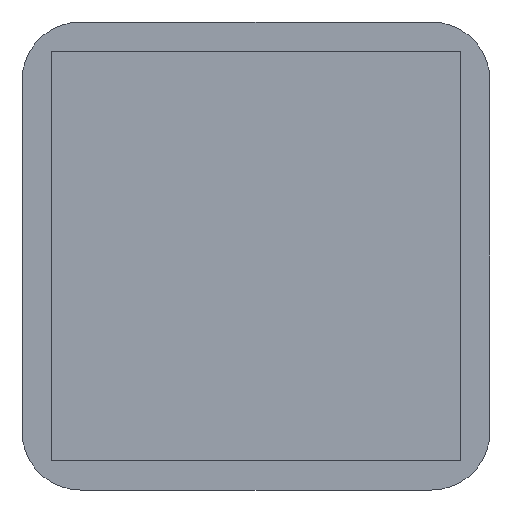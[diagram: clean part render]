
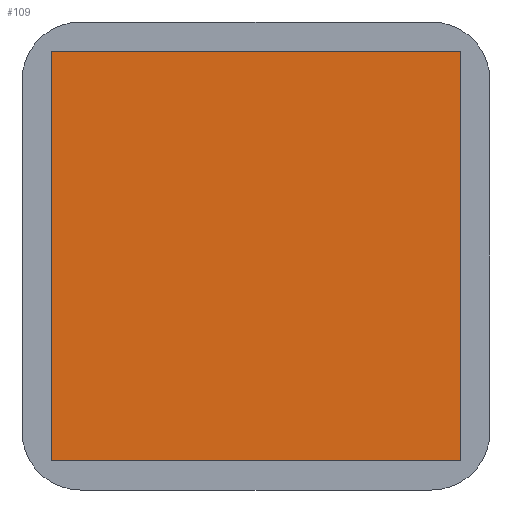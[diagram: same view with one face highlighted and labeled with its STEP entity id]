
A CAD part, front view. The second image highlights one B-rep face of the part: STEP entity #109.
In plain terms, the highlighted planar face has unit normal (0, -1, 0).
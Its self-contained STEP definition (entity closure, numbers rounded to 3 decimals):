
#18 = LINE ( 'NONE', #715, #134 ) ;
#68 = LINE ( 'NONE', #986, #1937 ) ;
#97 = DIRECTION ( 'NONE',  ( 0., 0., -1. ) ) ;
#109 = ADVANCED_FACE ( 'NONE', ( #843 ), #817, .F. ) ;
#134 = VECTOR ( 'NONE', #2181, 1000. ) ;
#177 = EDGE_CURVE ( 'NONE', #1194, #1603, #68, .T. ) ;
#227 = ORIENTED_EDGE ( 'NONE', *, *, #1929, .F. ) ;
#243 = AXIS2_PLACEMENT_3D ( 'NONE', #1761, #1383, #1567 ) ;
#391 = EDGE_LOOP ( 'NONE', ( #1655, #1988, #544, #227 ) ) ;
#414 = VERTEX_POINT ( 'NONE', #602 ) ;
#544 = ORIENTED_EDGE ( 'NONE', *, *, #2068, .F. ) ;
#602 = CARTESIAN_POINT ( 'NONE',  ( 11.087, -13.936, 14.225 ) ) ;
#631 = CARTESIAN_POINT ( 'NONE',  ( -2.913, -13.936, 14.225 ) ) ;
#687 = DIRECTION ( 'NONE',  ( 1., 0., 0. ) ) ;
#715 = CARTESIAN_POINT ( 'NONE',  ( -2.913, -13.936, 0.225 ) ) ;
#817 = PLANE ( 'NONE',  #243 ) ;
#843 = FACE_OUTER_BOUND ( 'NONE', #391, .T. ) ;
#986 = CARTESIAN_POINT ( 'NONE',  ( -2.913, -13.936, 0.225 ) ) ;
#1031 = VECTOR ( 'NONE', #687, 1000. ) ;
#1045 = CARTESIAN_POINT ( 'NONE',  ( 11.087, -13.936, 0.225 ) ) ;
#1102 = LINE ( 'NONE', #1244, #1031 ) ;
#1154 = CARTESIAN_POINT ( 'NONE',  ( -2.913, -13.936, 0.225 ) ) ;
#1194 = VERTEX_POINT ( 'NONE', #1154 ) ;
#1244 = CARTESIAN_POINT ( 'NONE',  ( -2.913, -13.936, 14.225 ) ) ;
#1383 = DIRECTION ( 'NONE',  ( 0., 1., 0. ) ) ;
#1395 = DIRECTION ( 'NONE',  ( 0., 0., 1. ) ) ;
#1473 = CARTESIAN_POINT ( 'NONE',  ( 11.087, -13.936, 0.225 ) ) ;
#1567 = DIRECTION ( 'NONE',  ( 0., 0., 1. ) ) ;
#1603 = VERTEX_POINT ( 'NONE', #631 ) ;
#1655 = ORIENTED_EDGE ( 'NONE', *, *, #177, .F. ) ;
#1708 = VERTEX_POINT ( 'NONE', #1473 ) ;
#1714 = EDGE_CURVE ( 'NONE', #1708, #1194, #18, .T. ) ;
#1758 = LINE ( 'NONE', #1045, #2394 ) ;
#1761 = CARTESIAN_POINT ( 'NONE',  ( -2.913, -13.936, 0.225 ) ) ;
#1929 = EDGE_CURVE ( 'NONE', #1603, #414, #1102, .T. ) ;
#1937 = VECTOR ( 'NONE', #1395, 1000. ) ;
#1988 = ORIENTED_EDGE ( 'NONE', *, *, #1714, .F. ) ;
#2068 = EDGE_CURVE ( 'NONE', #414, #1708, #1758, .T. ) ;
#2181 = DIRECTION ( 'NONE',  ( -1., 0., 0. ) ) ;
#2394 = VECTOR ( 'NONE', #97, 1000. ) ;
